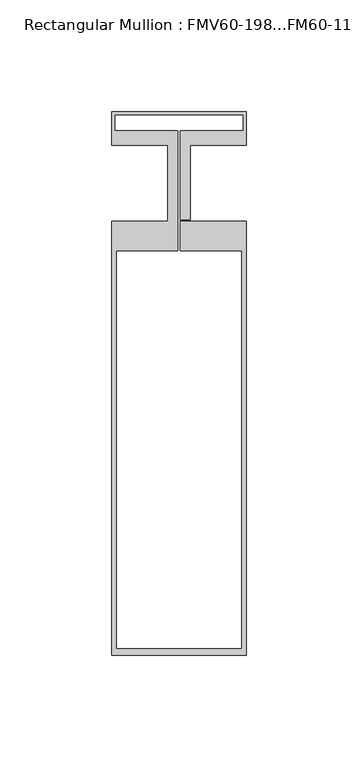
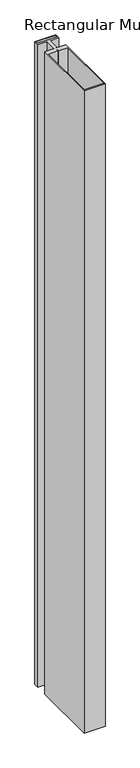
"""IFC4 building model written with IfcOpenShell, lengths in millimetres: member geometry, Rectangular Mullion : FMV60-198...FM60-11."""

from ifc_helpers import new_model, si_unit, frame, origin, place, context, project, spatial, polyline, outline, extrude, source, transform, mapped, element, save


def rectangular_mullion_fmv60_198_fm60_11_c9d1c292(model_context):
    return source(origin(), model_context, "Body", "SweptSolid", [
        extrude(outline(polyline([(30.0, -16.9999336), (30.0, -210.9989914), (-30.0, -210.9989914), (-30.0, -16.9999336), (-4.9995097, -16.9999336), (-4.9995097, 17.0000664), (-30.0, 17.0000664), (-30.0, 32.0039104), (30.0, 32.0039104), (30.0, 17.0000664), (5.0, 17.0000664), (5.0, -16.1999336), (0.5, -16.1999336), (0.5, 23.4439745), (28.7000412, 23.4439745), (28.7000412, 30.7039104), (-28.7000412, 30.7039104), (-28.7000412, 23.4439745), (-0.5, 23.4439745), (-0.5, -29.9945136), (-28.0, -29.9945136), (-28.0, -207.9989914), (28.0, -207.9989914), (28.0, -29.9945136), (0.5, -29.9945136), (0.5, -16.9999336), (30.0, -16.9999336)])), frame((0.0, 0.0, -1940.0), z_axis=(0.0, 0.0, 1.0), x_axis=(1.0, 0.0, 0.0)), (0.0, 0.0, 1.0), 1940.0),
    ])


if __name__ == "__main__":
    model = new_model("IFC4")
    model_context = context("Model", 3, world=origin())
    ifc_project = project(units=[si_unit("LENGTHUNIT", "METRE", prefix="MILLI")], contexts=[model_context])
    site = spatial("IfcSite", under=ifc_project)
    building = spatial("IfcBuilding", under=site)
    placement = place(None, origin())
    rectangular_mullion_fmv60_198_fm60_11_shape = rectangular_mullion_fmv60_198_fm60_11_c9d1c292(model_context)
    element("IfcMember", 1, ObjectType="Rectangular Mullion : FMV60-198...FM60-11", at=placement, inside=building, context=model_context, shape_type="MappedRepresentation", body=[
        mapped(rectangular_mullion_fmv60_198_fm60_11_shape, transform((0.0, 0.0, 0.0), x_axis=(1.0, 0.0, 0.0), y_axis=(0.0, 1.0, 0.0), z_axis=(0.0, 0.0, 1.0))),
    ])
    save(model, "model.ifc")
